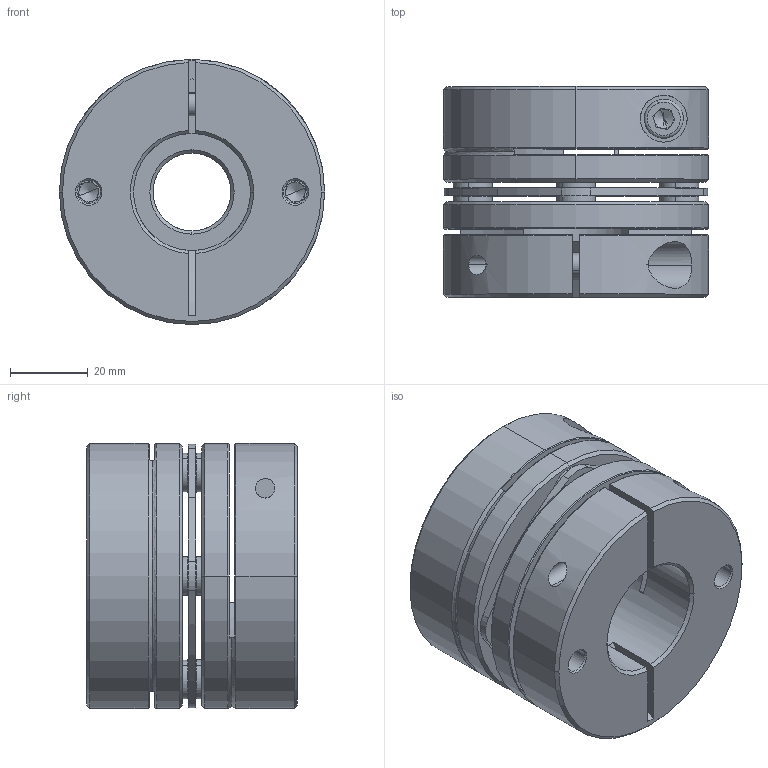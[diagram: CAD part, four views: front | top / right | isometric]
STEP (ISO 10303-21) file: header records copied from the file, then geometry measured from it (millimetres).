
FILE_DESCRIPTION (( 'STEP AP203' ), '1' );
FILE_NAME ('LD1-D68-20-30.STEP', '2021-10-26T07:58:28', ( '' ), ( '' ), 'SwSTEP 2.0', 'SolidWorks 2018', '' );
FILE_SCHEMA (( 'CONFIG_CONTROL_DESIGN' ));
Length unit declared in the file: millimetre
Products named in the file (2): LD1-D68-20-30; 錨璃101^LD1-D68
Assembly tree (1 placements, depth 2):
  LD1-D68-20-30
    錨璃101^LD1-D68
Bounding box: 68 x 54 x 68 mm (x, y, z)
Volume: 142054.3 mm3; surface area: 45988.7 mm2
Topology: 1 solids, 15 shells, 445 faces, 1059 edges, 650 vertices
Faces by surface type: cylinder 163, plane 138, cone 122, torus 22
Entity records: 13459 total; most frequent: CARTESIAN_POINT 2611, DIRECTION 2433, ORIENTED_EDGE 2086, EDGE_CURVE 1043, AXIS2_PLACEMENT_3D 988, VERTEX_POINT 650, CIRCLE 539, EDGE_LOOP 525
